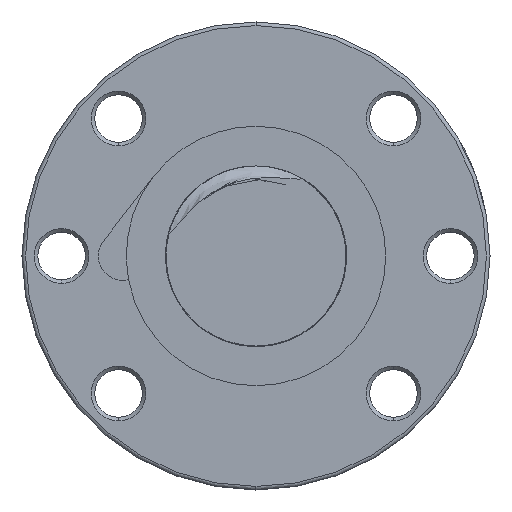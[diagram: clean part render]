
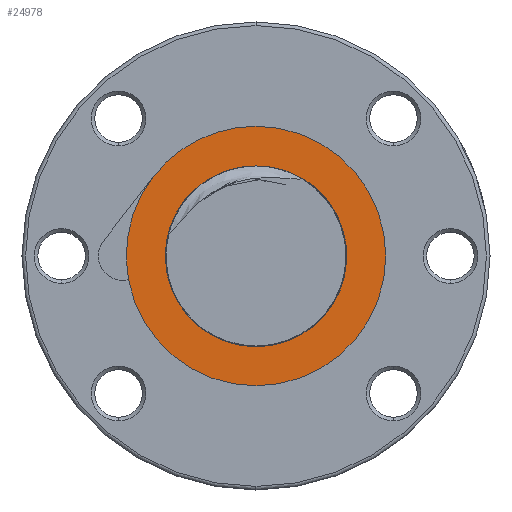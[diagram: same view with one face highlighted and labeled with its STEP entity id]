
A CAD part, left-side view. The second image highlights one B-rep face of the part: STEP entity #24978.
In plain terms, the highlighted planar face has unit normal (-1, 0, 0).
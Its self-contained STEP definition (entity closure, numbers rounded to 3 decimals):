
#3664 = CARTESIAN_POINT ( 'NONE',  ( -172.8, 14.243, 11.038 ) ) ;
#3665 = DIRECTION ( 'NONE',  ( 0., 0., 1. ) ) ;
#3666 = DIRECTION ( 'NONE',  ( -1., 0., 0. ) ) ;
#3667 = CARTESIAN_POINT ( 'NONE',  ( -172.8, 0., 0. ) ) ;
#3668 = AXIS2_PLACEMENT_3D ( 'NONE', #3667, #3666, #3665 ) ;
#3673 = CIRCLE ( 'NONE', #3668, 18.019 ) ;
#4461 = CARTESIAN_POINT ( 'NONE',  ( -172.8, -7.379, 10.213 ) ) ;
#4462 = DIRECTION ( 'NONE',  ( 0., 0., 1. ) ) ;
#4463 = DIRECTION ( 'NONE',  ( -1., 0., 0. ) ) ;
#4464 = CARTESIAN_POINT ( 'NONE',  ( -172.8, 0., 0. ) ) ;
#4465 = AXIS2_PLACEMENT_3D ( 'NONE', #4464, #4463, #4462 ) ;
#4466 = CIRCLE ( 'NONE', #4465, 12.6 ) ;
#4467 = CARTESIAN_POINT ( 'NONE',  ( -172.8, 0., -12.6 ) ) ;
#5173 = CARTESIAN_POINT ( 'NONE',  ( -172.8, 17.717, -3.285 ) ) ;
#5174 = DIRECTION ( 'NONE',  ( 0., 0., 1. ) ) ;
#5175 = DIRECTION ( 'NONE',  ( -1., 0., 0. ) ) ;
#5176 = CARTESIAN_POINT ( 'NONE',  ( -172.8, 0., 0. ) ) ;
#5177 = AXIS2_PLACEMENT_3D ( 'NONE', #5176, #5175, #5174 ) ;
#5178 = CIRCLE ( 'NONE', #5177, 18.019 ) ;
#5403 = CARTESIAN_POINT ( 'NONE',  ( -172.8, 0., 18.019 ) ) ;
#5404 = CARTESIAN_POINT ( 'NONE',  ( -172.8, 0., -18.019 ) ) ;
#5405 = DIRECTION ( 'NONE',  ( 0., 0., 1. ) ) ;
#5406 = DIRECTION ( 'NONE',  ( -1., 0., 0. ) ) ;
#5407 = AXIS2_PLACEMENT_3D ( 'NONE', #5414, #5406, #5405 ) ;
#5408 = CIRCLE ( 'NONE', #5407, 18.019 ) ;
#5414 = CARTESIAN_POINT ( 'NONE',  ( -172.8, 0., 0. ) ) ;
#18234 = DIRECTION ( 'NONE',  ( 0., 0., 1. ) ) ;
#18235 = DIRECTION ( 'NONE',  ( -1., 0., 0. ) ) ;
#18236 = CARTESIAN_POINT ( 'NONE',  ( -172.8, 0., 0. ) ) ;
#18237 = AXIS2_PLACEMENT_3D ( 'NONE', #18236, #18235, #18234 ) ;
#18238 = CIRCLE ( 'NONE', #18237, 18.019 ) ;
#18239 = CARTESIAN_POINT ( 'NONE',  ( -172.8, 11.973, 3.926 ) ) ;
#18240 = CARTESIAN_POINT ( 'NONE',  ( -172.8, 11.868, 3.968 ) ) ;
#18241 = CARTESIAN_POINT ( 'NONE',  ( -172.8, 11.771, 4.025 ) ) ;
#18242 = CARTESIAN_POINT ( 'NONE',  ( -172.8, 11.584, 4.15 ) ) ;
#18243 = CARTESIAN_POINT ( 'NONE',  ( -172.8, 11.495, 4.22 ) ) ;
#18244 = CARTESIAN_POINT ( 'NONE',  ( -172.8, 11.234, 4.436 ) ) ;
#18245 = CARTESIAN_POINT ( 'NONE',  ( -172.8, 11.07, 4.591 ) ) ;
#18246 = CARTESIAN_POINT ( 'NONE',  ( -172.8, 10.587, 5.065 ) ) ;
#18247 = CARTESIAN_POINT ( 'NONE',  ( -172.8, 10.276, 5.392 ) ) ;
#18248 = CARTESIAN_POINT ( 'NONE',  ( -172.8, 9.643, 6.035 ) ) ;
#18249 = CARTESIAN_POINT ( 'NONE',  ( -172.8, 9.321, 6.351 ) ) ;
#18250 = CARTESIAN_POINT ( 'NONE',  ( -172.8, 8.66, 6.962 ) ) ;
#18251 = CARTESIAN_POINT ( 'NONE',  ( -172.8, 8.32, 7.257 ) ) ;
#18252 = CARTESIAN_POINT ( 'NONE',  ( -172.8, 7.616, 7.82 ) ) ;
#18253 = CARTESIAN_POINT ( 'NONE',  ( -172.8, 7.251, 8.089 ) ) ;
#18254 = CARTESIAN_POINT ( 'NONE',  ( -172.8, 6.505, 8.59 ) ) ;
#18255 = CARTESIAN_POINT ( 'NONE',  ( -172.8, 6.123, 8.823 ) ) ;
#18256 = CARTESIAN_POINT ( 'NONE',  ( -172.8, 4.951, 9.467 ) ) ;
#18257 = CARTESIAN_POINT ( 'NONE',  ( -172.8, 4.134, 9.822 ) ) ;
#18258 = CARTESIAN_POINT ( 'NONE',  ( -172.8, 2.853, 10.238 ) ) ;
#18259 = CARTESIAN_POINT ( 'NONE',  ( -172.8, 2.414, 10.358 ) ) ;
#18260 = CARTESIAN_POINT ( 'NONE',  ( -172.8, 1.537, 10.552 ) ) ;
#18261 = CARTESIAN_POINT ( 'NONE',  ( -172.8, 1.097, 10.628 ) ) ;
#18262 = CARTESIAN_POINT ( 'NONE',  ( -172.8, -0.229, 10.795 ) ) ;
#18263 = CARTESIAN_POINT ( 'NONE',  ( -172.8, -1.12, 10.824 ) ) ;
#18264 = CARTESIAN_POINT ( 'NONE',  ( -172.8, -2.466, 10.761 ) ) ;
#18265 = CARTESIAN_POINT ( 'NONE',  ( -172.8, -2.917, 10.722 ) ) ;
#18266 = CARTESIAN_POINT ( 'NONE',  ( -172.8, -3.812, 10.616 ) ) ;
#18267 = CARTESIAN_POINT ( 'NONE',  ( -172.8, -4.257, 10.549 ) ) ;
#18268 = CARTESIAN_POINT ( 'NONE',  ( -172.8, -5.147, 10.402 ) ) ;
#18269 = CARTESIAN_POINT ( 'NONE',  ( -172.8, -5.59, 10.32 ) ) ;
#18270 = CARTESIAN_POINT ( 'NONE',  ( -172.8, -6.259, 10.221 ) ) ;
#18271 = CARTESIAN_POINT ( 'NONE',  ( -172.8, -6.483, 10.192 ) ) ;
#18272 = CARTESIAN_POINT ( 'NONE',  ( -172.8, -6.819, 10.17 ) ) ;
#18273 = CARTESIAN_POINT ( 'NONE',  ( -172.8, -6.931, 10.167 ) ) ;
#18274 = CARTESIAN_POINT ( 'NONE',  ( -172.8, -7.155, 10.175 ) ) ;
#18275 = CARTESIAN_POINT ( 'NONE',  ( -172.8, -7.269, 10.186 ) ) ;
#18276 = CARTESIAN_POINT ( 'NONE',  ( -172.8, -7.379, 10.213 ) ) ;
#18277 = B_SPLINE_CURVE_WITH_KNOTS ( 'NONE', 3,
 ( #18276, #18275, #18274, #18273, #18272, #18271, #18270, #18269, #18268, #18267, #18266, #18265, #18264, #18263, #18262, #18261, #18260, #18259, #18258, #18257, #18256, #18255, #18254, #18253, #18252, #18251, #18250, #18249, #18248, #18247, #18246, #18245, #18244, #18243, #18242, #18241, #18240, #18239 ),
 .UNSPECIFIED., .F., .F.,
 ( 4, 2, 2, 2, 2, 2, 2, 2, 2, 2, 2, 2, 2, 2, 2, 2, 2, 2, 4 ),
 ( 0.03, 0.031, 0.031, 0.032, 0.033, 0.034, 0.036, 0.038, 0.04, 0.041, 0.044, 0.045, 0.047, 0.048, 0.049, 0.051, 0.051, 0.052, 0.052 ),
 .UNSPECIFIED. ) ;
#18278 = DIRECTION ( 'NONE',  ( 0., 0., 1. ) ) ;
#18279 = DIRECTION ( 'NONE',  ( -1., 0., 0. ) ) ;
#18280 = CARTESIAN_POINT ( 'NONE',  ( -172.8, 0., 12.6 ) ) ;
#18281 = AXIS2_PLACEMENT_3D ( 'NONE', #18280, #18279, #18278 ) ;
#18282 = PLANE ( 'NONE',  #18281 ) ;
#18283 = FACE_OUTER_BOUND ( 'NONE', #24984, .T. ) ;
#18304 = DIRECTION ( 'NONE',  ( 0., 0., 1. ) ) ;
#18305 = DIRECTION ( 'NONE',  ( -1., 0., 0. ) ) ;
#18306 = AXIS2_PLACEMENT_3D ( 'NONE', #18331, #18305, #18304 ) ;
#18307 = CIRCLE ( 'NONE', #18306, 12.6 ) ;
#18308 = FACE_BOUND ( 'NONE', #24979, .T. ) ;
#18331 = CARTESIAN_POINT ( 'NONE',  ( -172.8, 0., 0. ) ) ;
#18332 = CARTESIAN_POINT ( 'NONE',  ( -172.8, 11.973, 3.926 ) ) ;
#24545 = EDGE_CURVE ( 'NONE', #25169, #24546, #3673, .T. ) ;
#24546 = VERTEX_POINT ( 'NONE', #3664 ) ;
#24692 = VERTEX_POINT ( 'NONE', #4467 ) ;
#24694 = EDGE_CURVE ( 'NONE', #24692, #24695, #4466, .T. ) ;
#24695 = VERTEX_POINT ( 'NONE', #4461 ) ;
#24975 = VERTEX_POINT ( 'NONE', #18332 ) ;
#24977 = EDGE_CURVE ( 'NONE', #24975, #24692, #18307, .T. ) ;
#24978 = ADVANCED_FACE ( 'NONE', ( #18308, #18283 ), #18282, .T. ) ;
#24979 = EDGE_LOOP ( 'NONE', ( #24980, #24981, #24983 ) ) ;
#24980 = ORIENTED_EDGE ( 'NONE', *, *, #24977, .F. ) ;
#24981 = ORIENTED_EDGE ( 'NONE', *, *, #24982, .F. ) ;
#24982 = EDGE_CURVE ( 'NONE', #24695, #24975, #18277, .T. ) ;
#24983 = ORIENTED_EDGE ( 'NONE', *, *, #24694, .F. ) ;
#24984 = EDGE_LOOP ( 'NONE', ( #24985, #24987, #24988, #24989 ) ) ;
#24985 = ORIENTED_EDGE ( 'NONE', *, *, #24986, .T. ) ;
#24986 = EDGE_CURVE ( 'NONE', #24546, #25041, #18238, .T. ) ;
#24987 = ORIENTED_EDGE ( 'NONE', *, *, #25040, .T. ) ;
#24988 = ORIENTED_EDGE ( 'NONE', *, *, #25167, .T. ) ;
#24989 = ORIENTED_EDGE ( 'NONE', *, *, #24545, .T. ) ;
#25040 = EDGE_CURVE ( 'NONE', #25041, #25168, #5178, .T. ) ;
#25041 = VERTEX_POINT ( 'NONE', #5173 ) ;
#25167 = EDGE_CURVE ( 'NONE', #25168, #25169, #5408, .T. ) ;
#25168 = VERTEX_POINT ( 'NONE', #5404 ) ;
#25169 = VERTEX_POINT ( 'NONE', #5403 ) ;
